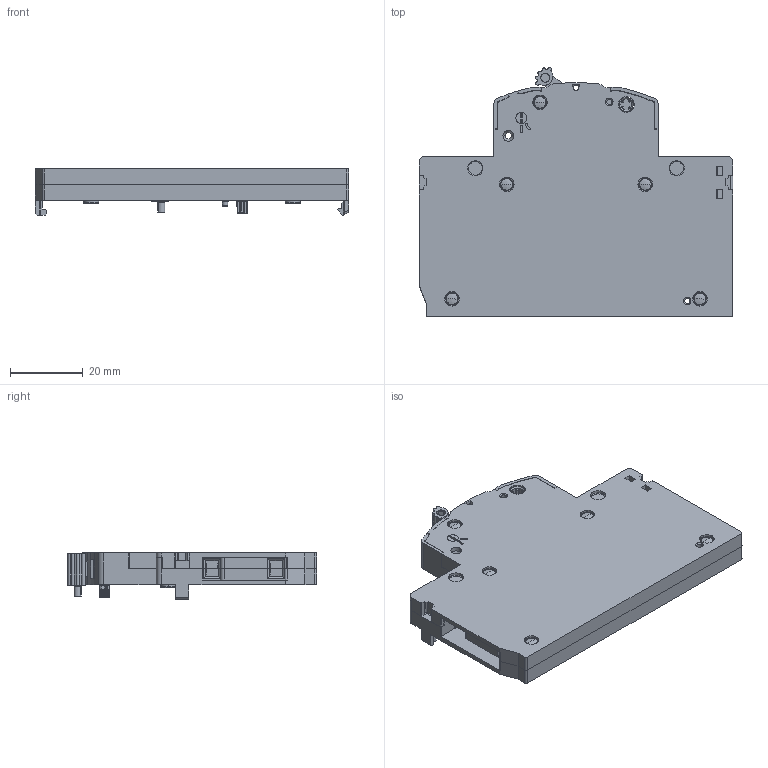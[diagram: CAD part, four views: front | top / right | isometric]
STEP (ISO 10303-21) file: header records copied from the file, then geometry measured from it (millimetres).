
FILE_DESCRIPTION (( 'STEP AP214' ), '1' );
FILE_NAME ('PS-LP.step', '2011-08-08T12:00:56', ( 'Radek Veselý' ), ( 'Siemens and Partners' ), 'SwSTEP 2.0', 'SolidWorks 2006303', '' );
FILE_SCHEMA (( 'AUTOMOTIVE_DESIGN' ));
Length unit declared in the file: millimetre
Products named in the file (1): PS-LP
Bounding box: 86 x 68.4 x 12.75 mm (x, y, z)
Volume: 20518.9 mm3; surface area: 31630.6 mm2
Topology: 15 solids, 15 shells, 2930 faces, 7572 edges, 4762 vertices
Faces by surface type: plane 1534, cylinder 911, torus 213, cone 206, sphere 50, bspline 16
Entity records: 121670 total; most frequent: CARTESIAN_POINT 16422, DIRECTION 15690, ORIENTED_EDGE 15092, EDGE_CURVE 7546, AXIS2_PLACEMENT_3D 5456, VECTOR 4778, LINE 4778, VERTEX_POINT 4760
